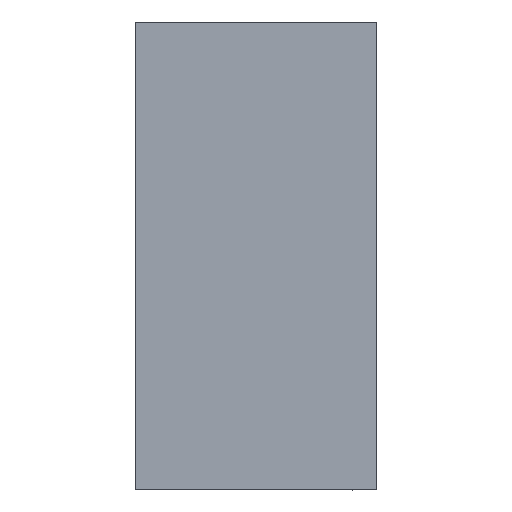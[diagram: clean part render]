
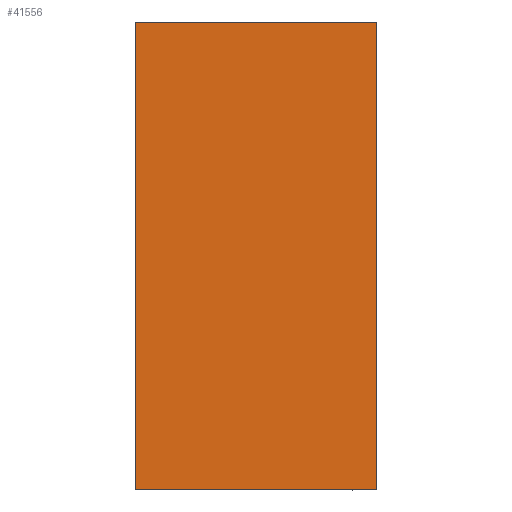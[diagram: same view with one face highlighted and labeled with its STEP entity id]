
A CAD part, left-side view. The second image highlights one B-rep face of the part: STEP entity #41556.
In plain terms, the highlighted planar face has unit normal (-1, 0, 0).
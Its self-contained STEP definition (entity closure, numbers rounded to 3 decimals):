
#41432=DIRECTION('',(0.,0.,1.));
#41433=VECTOR('',#41432,1030.);
#41434=CARTESIAN_POINT('',(0.,0.,-1030.));
#41435=LINE('',#41434,#41433);
#41436=DIRECTION('',(0.,1.,0.));
#41437=VECTOR('',#41436,2000.);
#41438=CARTESIAN_POINT('',(0.,0.,0.));
#41439=LINE('',#41438,#41437);
#41440=DIRECTION('',(0.,1.,0.));
#41441=VECTOR('',#41440,2000.);
#41442=CARTESIAN_POINT('',(0.,0.,-1030.));
#41443=LINE('',#41442,#41441);
#41464=DIRECTION('',(0.,0.,1.));
#41465=VECTOR('',#41464,1030.);
#41466=CARTESIAN_POINT('',(0.,2000.,-1030.));
#41467=LINE('',#41466,#41465);
#41484=CARTESIAN_POINT('',(0.,0.,0.));
#41486=VERTEX_POINT('',#41484);
#41494=CARTESIAN_POINT('',(0.,0.,-1030.));
#41495=VERTEX_POINT('',#41494);
#41496=CARTESIAN_POINT('',(0.,2000.,0.));
#41498=VERTEX_POINT('',#41496);
#41506=CARTESIAN_POINT('',(0.,2000.,-1030.));
#41507=VERTEX_POINT('',#41506);
#41543=CARTESIAN_POINT('',(0.,0.,-1030.));
#41544=DIRECTION('',(-1.,0.,0.));
#41545=DIRECTION('',(0.,0.,1.));
#41546=AXIS2_PLACEMENT_3D('',#41543,#41544,#41545);
#41547=PLANE('',#41546);
#41548=ORIENTED_EDGE('',*,*,#41523,.F.);
#41550=ORIENTED_EDGE('',*,*,#41549,.T.);
#41552=ORIENTED_EDGE('',*,*,#41551,.T.);
#41553=ORIENTED_EDGE('',*,*,#41534,.F.);
#41554=EDGE_LOOP('',(#41548,#41550,#41552,#41553));
#41555=FACE_OUTER_BOUND('',#41554,.F.);
#41556=ADVANCED_FACE('',(#41555),#41547,.T.);
#41523=EDGE_CURVE('',#41495,#41486,#41435,.T.);
#41534=EDGE_CURVE('',#41486,#41498,#41439,.T.);
#41549=EDGE_CURVE('',#41495,#41507,#41443,.T.);
#41551=EDGE_CURVE('',#41507,#41498,#41467,.T.);
